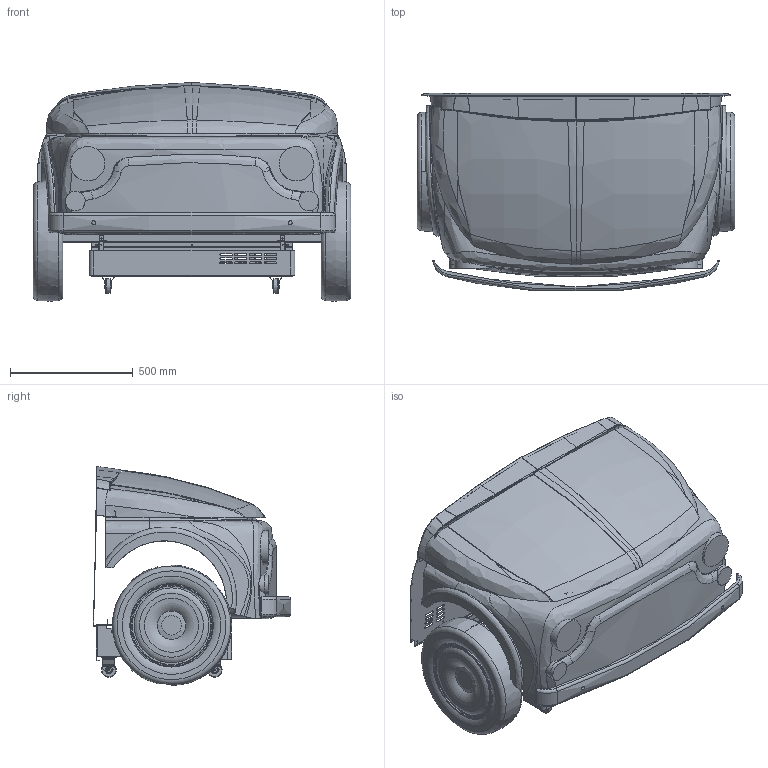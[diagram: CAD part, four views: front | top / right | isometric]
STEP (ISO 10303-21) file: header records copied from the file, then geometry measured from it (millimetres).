
FILE_DESCRIPTION(/* description */ (''),/* implementation_level */ '2;1');
FILE_NAME(/* name */ 'PIPPA.stp',/* time_stamp */ '2017-09-20T14:27:03+02:00',/* author */ (''),/* organization */ (''),/* preprocessor_version */ 'ST-DEVELOPER v16',/* originating_system */ 'SIEMENS PLM Software NX 11.0',/* authorisation */ '');
FILE_SCHEMA (('AUTOMOTIVE_DESIGN { 1 0 10303 214 3 1 1 1 }'));
Length unit declared in the file: millimetre
Products named in the file (1): fave1E1C971Cktrs
Bounding box: 1292.97 x 803.16 x 891.11 mm (x, y, z)
Volume: 132784357 mm3; surface area: 9397444.2 mm2
Topology: 19 solids, 548 shells, 2130 faces, 7285 edges, 5719 vertices
Faces by surface type: plane 815, cylinder 778, bspline 459, cone 42, torus 34, sphere 2
Full cylindrical faces by diameter (mm): 3.2 x8, 3.5 x18, 3.6 x8, 4 x4, 5 x22, 5.5 x5, 6 x2, 6.5 x2, 7 x19, 8 x2, 8.2 x4, 12 x2, 14 x3, 16 x2, 18 x8, 20 x8, 30 x8, 60 x4, 77.2 x2, 80 x2, 140 x2, 320 x4, 340 x4
Entity records: 197133 total; most frequent: CARTESIAN_POINT 136607, ORIENTED_EDGE 11470, DIRECTION 8755, EDGE_CURVE 7072, VERTEX_POINT 5698, AXIS2_PLACEMENT_3D 3053, EDGE_LOOP 2886, B_SPLINE_CURVE_WITH_KNOTS 2871
